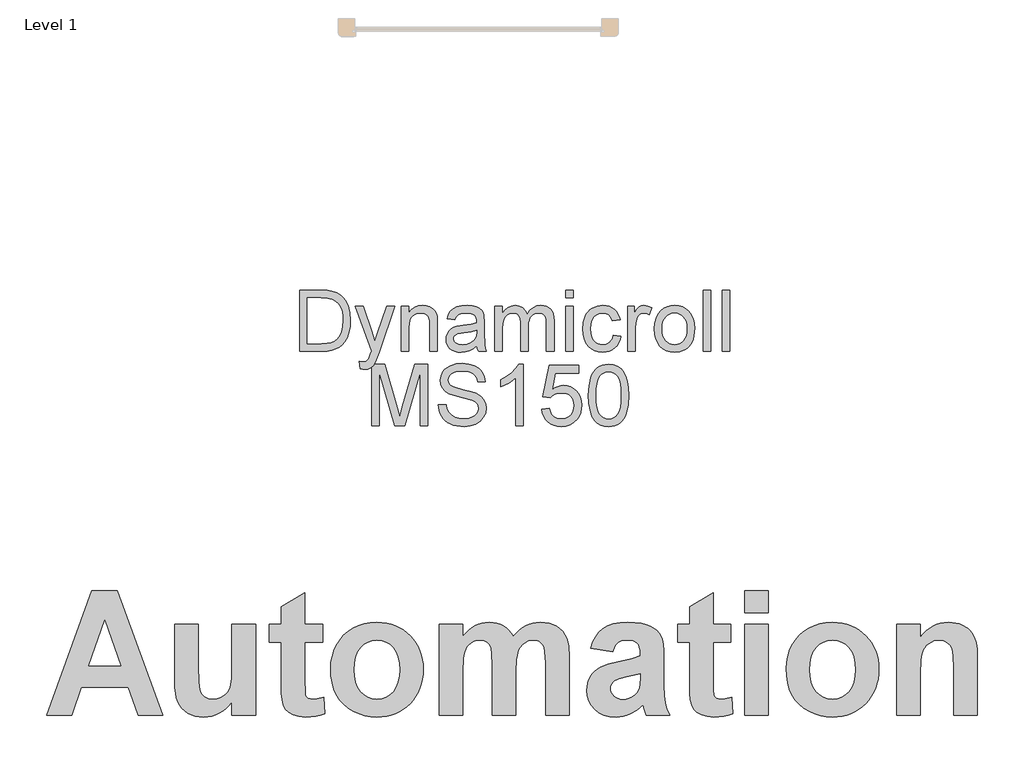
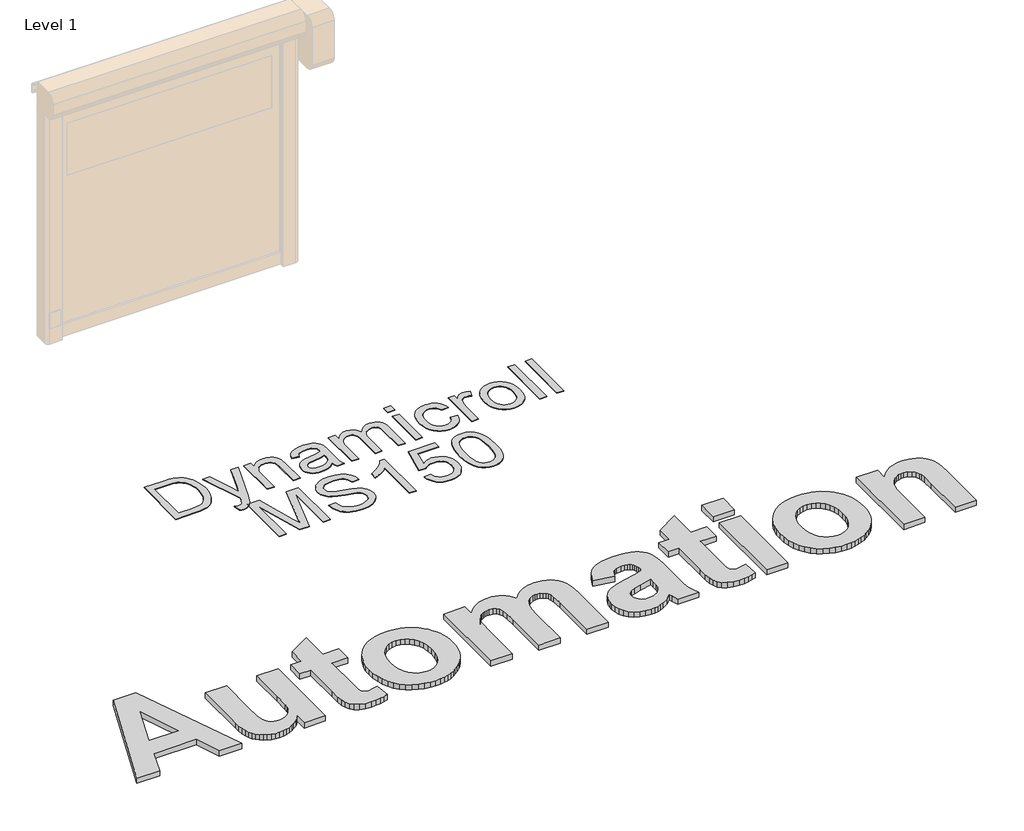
# One storey, part 16 of 17: 2 proxies.
"""IFC4 building model written with IfcOpenShell, lengths in millimetres."""

import ifcopenshell
import ifcopenshell.guid

model = None  # the IFC model being written
_history = None  # IfcOwnerHistory: only IFC2X3 demands one
_inside = {}  # id of a spatial element -> (the spatial element, [elements in it])
_under = {}  # id of a project, library or spatial element -> (it, [spatial elements below it])
_declared = {}  # id of a project -> (the project, [libraries it declares])
_typed = {}  # id of a type object -> (the type object, [elements of that type])
_made_of = {}  # id of a material, layer set ... -> (it, [elements and type objects made of it])


def new_model(schema):
    """Start an empty IFC model of exactly this schema.

    Asked for "IFC4X3", IfcOpenShell would pick the latest addendum, in which some entities
    have other attributes; the version numbers below select the first issue.
    IFC2X3 requires an IfcOwnerHistory on every rooted entity: one is made here for all.
    """
    global model, _history
    if schema == "IFC4X3":
        model = ifcopenshell.file(schema_version=(4, 3, 0, 0))
    else:
        model = ifcopenshell.file(schema=schema)
    _inside.clear()
    _under.clear()
    _declared.clear()
    _typed.clear()
    _made_of.clear()
    _history = None
    if model.schema == "IFC2X3":
        org = make("IfcOrganization", Name="unknown")
        user = make(
            "IfcPersonAndOrganization",
            ThePerson=make("IfcPerson", FamilyName="unknown"),
            TheOrganization=org,
        )
        app = make(
            "IfcApplication",
            ApplicationDeveloper=org,
            Version="unknown",
            ApplicationFullName="unknown",
            ApplicationIdentifier="unknown",
        )
        _history = make(
            "IfcOwnerHistory",
            OwningUser=user,
            OwningApplication=app,
            ChangeAction="ADDED",
            CreationDate=0,
        )
    return model


def make(cls, **values):
    """One entity of the class cls with the attributes given. An attribute that is None is left unset."""
    return model.create_entity(
        cls, **{name: value for name, value in values.items() if value is not None}
    )


def rooted(cls, **values):
    """An entity with a GlobalId (a new one), such as an element, a storey or a relation."""
    return make(cls, GlobalId=ifcopenshell.guid.new(), OwnerHistory=_history, **values)


def si_unit(unit_type, name, prefix=None):
    """IfcSIUnit, for example si_unit("LENGTHUNIT", "METRE", prefix="MILLI")."""
    return make("IfcSIUnit", UnitType=unit_type, Prefix=prefix, Name=name)


def assignment(units):
    """IfcUnitAssignment: the units of a project."""
    return None if units is None else make("IfcUnitAssignment", Units=units)


def point(xyz):
    """IfcCartesianPoint."""
    return None if xyz is None else make("IfcCartesianPoint", Coordinates=xyz)


def direction(xyz):
    """IfcDirection."""
    return None if xyz is None else make("IfcDirection", DirectionRatios=xyz)


def frame(location, z_axis=None, x_axis=None):
    """IfcAxis2Placement3D, a coordinate frame: its origin and axes. An axis left out is left unset."""
    return make(
        "IfcAxis2Placement3D",
        Location=point(location),
        Axis=direction(z_axis),
        RefDirection=direction(x_axis),
    )


def origin():
    """The frame at (0, 0, 0) with its axes left unset."""
    return frame((0.0, 0.0, 0.0))


def origin_with_axes():
    """The frame at (0, 0, 0) with the z axis (0, 0, 1) and the x axis (1, 0, 0) written out."""
    return frame((0.0, 0.0, 0.0), z_axis=(0.0, 0.0, 1.0), x_axis=(1.0, 0.0, 0.0))


def place(relative_to, where):
    """IfcLocalPlacement: puts the frame where relative to a parent placement (None: the world)."""
    return make(
        "IfcLocalPlacement", PlacementRelTo=relative_to, RelativePlacement=where
    )


def context(
    kind, dimensions, precision=None, world=None, true_north=None, identifier=None
):
    """IfcGeometricRepresentationContext, for example the 3D "Model" context."""
    return make(
        "IfcGeometricRepresentationContext",
        ContextIdentifier=identifier,
        ContextType=kind,
        CoordinateSpaceDimension=dimensions,
        Precision=precision,
        WorldCoordinateSystem=world,
        TrueNorth=true_north,
    )


def project(units=None, contexts=None):
    """IfcProject with its units and contexts."""
    return rooted(
        "IfcProject",
        Name="project",
        RepresentationContexts=contexts,
        UnitsInContext=assignment(units),
    )


def spatial(cls, under=None, at=None, **own):
    """A site, building, storey or space (cls), placed at a placement, below another one or the project."""
    s = rooted(cls, ObjectPlacement=at, **own)
    if under is not None:
        _under.setdefault(under.id(), (under, []))[1].append(s)
    return s


def polyline(points):
    """IfcPolyline through the points."""
    return make("IfcPolyline", Points=[point(p) for p in points])


def outline(outer, holes=None, kind="AREA"):
    """IfcArbitraryClosedProfileDef: a profile drawn as a closed curve; with holes, ...WithVoids."""
    if holes is None:
        return make("IfcArbitraryClosedProfileDef", ProfileType=kind, OuterCurve=outer)
    return make(
        "IfcArbitraryProfileDefWithVoids",
        ProfileType=kind,
        OuterCurve=outer,
        InnerCurves=holes,
    )


def extrude(swept, where, along, depth):
    """IfcExtrudedAreaSolid: the profile swept, set in the frame where, extruded along a direction by depth."""
    return make(
        "IfcExtrudedAreaSolid",
        SweptArea=swept,
        Position=where,
        ExtrudedDirection=direction(along),
        Depth=depth,
    )


def shape(context_of_items, identifier, shape_type, items):
    """IfcShapeRepresentation: the items that make up one representation, for example the "Body"."""
    return make(
        "IfcShapeRepresentation",
        ContextOfItems=context_of_items,
        RepresentationIdentifier=identifier,
        RepresentationType=shape_type,
        Items=items,
    )


def made_of(thing, what):
    """Note that an element or type object is made of a material, layer set ...; save() writes the relation."""
    if what is not None:
        _made_of.setdefault(what.id(), (what, []))[1].append(thing)
    return thing


def element(
    cls,
    number,
    at=None,
    inside=None,
    cuts=None,
    type_object=None,
    material=None,
    context=None,
    identifier="Body",
    shape_type=None,
    held_by="IfcProductDefinitionShape",
    body=None,
    shapes=None,
    **own,
):
    """One element of the class cls, such as IfcWall. Its Tag is "e" and its number.

    at: its placement. inside: the storey or other place that contains it. cuts: it is an
    opening in that element (IfcRelVoidsElement). A single representation is given by context,
    identifier, shape_type and body (its items); several are given by shapes. held_by: the class
    of the entity that holds the representations. save() writes the other relations.
    """
    e = rooted(cls, Tag="e%d" % number, ObjectPlacement=at, **own)
    if body is not None:
        shapes = [shape(context, identifier, shape_type, body)]
    if shapes is not None:
        e.Representation = make(held_by, Representations=shapes)
    if inside is not None:
        _inside.setdefault(inside.id(), (inside, []))[1].append(e)
    if cuts is not None:
        rooted(
            "IfcRelVoidsElement", RelatingBuildingElement=cuts, RelatedOpeningElement=e
        )
    if type_object is not None:
        _typed.setdefault(type_object.id(), (type_object, []))[1].append(e)
    return made_of(e, material)


def aggregate(whole, parts):
    """IfcRelAggregates: a whole, such as a stair, and the parts it consists of."""
    return rooted("IfcRelAggregates", RelatingObject=whole, RelatedObjects=parts)


def save(model, path):
    """Write the relations noted so far, then the file.

    IfcRelAggregates (storeys below a building ...), IfcRelContainedInSpatialStructure (elements
    in a storey), IfcRelDefinesByType, IfcRelAssociatesMaterial and IfcRelDeclares: one each for
    every whole, place, type object, material and project.
    """
    for whole, parts in _under.values():
        aggregate(whole, parts)
    for where, things in _inside.values():
        rooted(
            "IfcRelContainedInSpatialStructure",
            RelatedElements=things,
            RelatingStructure=where,
        )
    for kind, things in _typed.values():
        rooted("IfcRelDefinesByType", RelatedObjects=things, RelatingType=kind)
    for what, things in _made_of.values():
        rooted("IfcRelAssociatesMaterial", RelatedObjects=things, RelatingMaterial=what)
    for by, libraries in _declared.values():
        rooted("IfcRelDeclares", RelatingContext=by, RelatedDefinitions=libraries)
    model.write(path)


model = new_model("IFC4")

# Units and contexts
model_context = context("Model", 3, world=origin())
ifc_project = project(units=[si_unit("LENGTHUNIT", "METRE", prefix="MILLI")], contexts=[model_context])

# Site, building, storey
site = spatial("IfcSite", under=ifc_project)
building = spatial("IfcBuilding", under=site)
storey = spatial("IfcBuildingStorey", under=building, Name="Level 1", Elevation=0.0)

# Proxies
placement = place(None, origin())
element("IfcBuildingElementProxy", 1, Name="1000", ObjectType="1000", at=placement, inside=storey, context=model_context, shape_type="SweptSolid", body=[
    extrude(outline(polyline([(1198.6862628, 62514.1517949), (994.4825585, 62514.1517949), (914.5217524, 62740.876106), (529.1410316, 62740.876106), (450.1923876, 62514.1517949), (243.2052375, 62514.1517949), (615.6808914, 63534.4111948), (822.6680415, 63534.4111948), (1198.6862628, 62514.1517949)]), holes=[polyline([(852.273783, 62919.0166361), (720.9457502, 63291.4922901), (591.389001, 62919.0166361), (852.273783, 62919.0166361)])]), origin_with_axes(), (0.0, 0.0, 1.0), 50.0),
    extrude(outline(polyline([(1765.4970406, 62514.1517949), (1765.4970406, 62623.465302), (1744.6291047, 62595.796902), (1720.7404976, 62571.2440635), (1693.8312192, 62549.8067865), (1663.9012695, 62531.4850709), (1632.0102557, 62516.8166279), (1599.2177851, 62506.3391687), (1565.5238576, 62500.0526931), (1530.9284732, 62497.9572012), (1496.2777362, 62500.0131555), (1463.4299129, 62506.1810183), (1432.3850034, 62516.4607897), (1403.1430077, 62530.8524696), (1376.7635329, 62548.9685897), (1354.3061862, 62570.4216818), (1335.7709677, 62595.2117458), (1321.1578773, 62623.3387818), (1310.0873543, 62655.9889171), (1302.1798379, 62694.3482793), (1297.435328, 62738.4168684), (1295.8538247, 62788.1946843), (1295.8538247, 63259.1031028), (1490.1889485, 63259.1031028), (1490.1889485, 62914.7149472), (1492.814244, 62787.2141523), (1500.6901304, 62721.0124247), (1515.5562613, 62689.1293185), (1539.1522903, 62664.5843875), (1570.8772462, 62648.9275049), (1610.1301578, 62643.7085441), (1634.0345799, 62645.4481977), (1656.6579844, 62650.6671586), (1678.0003713, 62659.3654266), (1698.0617405, 62671.5430019), (1715.9485426, 62686.3063351), (1730.7672284, 62702.7618768), (1742.5177978, 62720.909627), (1751.2002509, 62740.7495857), (1757.4550964, 62768.9082517), (1761.9228432, 62812.0121238), (1765.4970406, 62943.0554861), (1765.4970406, 63259.1031028), (1959.8321644, 63259.1031028), (1959.8321644, 62514.1517949), (1765.4970406, 62514.1517949)])), origin_with_axes(), (0.0, 0.0, 1.0), 50.0),
    extrude(outline(polyline([(2510.4483485, 63259.1031028), (2510.4483485, 63113.3517599), (2364.6970057, 63113.3517599), (2364.6970057, 62793.7615759), (2365.804058, 62717.0586665), (2369.1252149, 62680.7789811), (2376.3684999, 62666.1026306), (2389.2419367, 62654.2097259), (2406.6384728, 62646.3338395), (2427.451056, 62643.7085441), (2465.913216, 62648.3897938), (2518.5456453, 62662.433543), (2526.6429422, 62524.2734159), (2490.3158117, 62512.760072), (2451.6796864, 62504.5362549), (2410.7345663, 62499.6019647), (2367.4804514, 62497.9572012), (2315.7336639, 62502.5119307), (2269.3007274, 62516.1761191), (2231.3762786, 62537.0519625), (2205.1549541, 62563.2416569), (2187.8533082, 62597.2123475), (2176.687895, 62641.4311794), (2171.9433851, 62694.2533891), (2170.3618818, 62782.8808333), (2170.3618818, 63113.3517599), (2073.1943199, 63113.3517599), (2073.1943199, 63259.1031028), (2170.3618818, 63259.1031028), (2170.3618818, 63404.8544456), (2364.6970057, 63518.2166012), (2364.6970057, 63259.1031028), (2510.4483485, 63259.1031028)])), origin_with_axes(), (0.0, 0.0, 1.0), 50.0),
    extrude(outline(polyline([(2575.2267231, 62897.2551509), (2578.2236718, 62945.8310244), (2587.214518, 62993.6319612), (2602.1992616, 63040.6579614), (2623.1779027, 63086.909025), (2649.6443602, 63130.0603422), (2681.0925531, 63167.7871031), (2717.5224813, 63200.0893077), (2758.9341448, 63226.966956), (2804.1176937, 63248.111655), (2851.8632779, 63263.2150113), (2902.1708974, 63272.2770252), (2955.0405523, 63275.2976964), (2995.9718342, 63273.5857191), (3035.009266, 63268.4497872), (3072.1528475, 63259.8899007), (3107.4025789, 63247.9060595), (3140.7584601, 63232.4982638), (3172.2204911, 63213.6665134), (3201.7886719, 63191.4108084), (3229.4630025, 63165.7311488), (3254.5199452, 63137.4341012), (3276.2359622, 63107.3262324), (3294.6110535, 63075.4075424), (3309.6452191, 63041.678031), (3321.338459, 63006.1376984), (3329.6907733, 62968.7865446), (3334.7021618, 62929.6245694), (3336.3726247, 62888.651773), (3334.6843699, 62847.3606991), (3329.6196056, 62807.8764927), (3321.1783318, 62770.1991538), (3309.3605485, 62734.3286824), (3294.1662557, 62700.2650785), (3275.5954534, 62668.0083421), (3253.6481415, 62637.5584732), (3228.3243201, 62608.9154718), (3200.4424172, 62582.9096271), (3170.8208607, 62560.3712284), (3139.4596505, 62541.3002757), (3106.3587867, 62525.6967689), (3071.5182693, 62513.560708), (3034.9380983, 62504.8920932), (2996.6182737, 62499.6909242), (2956.5587955, 62497.9572012), (2906.4172338, 62500.8434447), (2857.4617995, 62509.5021752), (2809.6924928, 62523.9333927), (2763.1093135, 62544.1370972), (2719.8710137, 62569.9235083), (2682.1363452, 62601.1028456), (2649.9053083, 62637.6751091), (2623.1779027, 62679.6402988), (2602.1992616, 62726.7374666), (2587.214518, 62778.7056646), (2578.2236718, 62835.5448927), (2575.2267231, 62897.2551509)]), holes=[polyline([(2769.5618469, 62886.6274488), (2772.9225414, 62831.2352962), (2783.0046248, 62782.7226829), (2799.8080973, 62741.0896089), (2823.3329586, 62706.3360742), (2851.7921103, 62678.9365298), (2883.3984534, 62659.3654266), (2918.1519882, 62647.6227647), (2956.0527144, 62643.7085441), (2993.9376256, 62647.6227647), (3028.6437152, 62659.3654266), (3060.1709832, 62678.9365298), (3088.5194297, 62706.3360742), (3111.9335858, 62741.1844991), (3128.6579831, 62783.1022437), (3138.6926214, 62832.089308), (3142.0375009, 62888.145692), (3138.6926214, 62942.8736132), (3128.6579831, 62990.9117755), (3111.9335858, 63032.2601789), (3088.5194297, 63066.9188235), (3060.1709832, 63094.3183679), (3028.6437152, 63113.8894711), (2993.9376256, 63125.632133), (2956.0527144, 63129.5463536), (2918.1519882, 63125.632133), (2883.3984534, 63113.8894711), (2851.7921103, 63094.3183679), (2823.3329586, 63066.9188235), (2799.8080973, 63032.1652888), (2783.0046248, 62990.5322147), (2772.9225414, 62942.0196014), (2769.5618469, 62886.6274488)])]), origin_with_axes(), (0.0, 0.0, 1.0), 50.0),
    extrude(outline(polyline([(3465.9293739, 63259.1031028), (3660.2644977, 63259.1031028), (3660.2644977, 63159.4051356), (3683.64307, 63186.5674546), (3708.1049721, 63210.108131), (3733.6502039, 63230.0271649), (3760.2787655, 63246.3245562), (3787.9906568, 63259.0003051), (3816.7858779, 63268.0544114), (3846.6644287, 63273.4868752), (3877.6263093, 63275.2976964), (3910.0392192, 63273.5185052), (3940.2222094, 63268.1809317), (3968.17528, 63259.2849757), (3993.8984309, 63246.8306373), (4017.4074773, 63230.7704714), (4038.718234, 63211.057033), (4057.8307012, 63187.6903219), (4074.7448789, 63160.6703383), (4099.1395671, 63187.6903219), (4124.4989723, 63211.057033), (4150.8230945, 63230.7704714), (4178.1119337, 63246.8306373), (4206.3496748, 63259.2849757), (4235.520503, 63268.1809317), (4265.624418, 63273.5185052), (4296.66142, 63275.2976964), (4335.1077649, 63273.2180196), (4370.4859934, 63266.9789892), (4402.7961055, 63256.5806051), (4432.0381013, 63242.0228673), (4458.0063853, 63223.4322962), (4480.495362, 63200.9354119), (4499.5050315, 63174.5322146), (4515.0353938, 63144.2227041), (4523.6704017, 63116.751992), (4529.8382645, 63081.9114746), (4534.7725548, 62990.1210239), (4534.7725548, 62514.1517949), (4340.437431, 62514.1517949), (4340.437431, 62943.0554861), (4335.5031407, 63034.8459368), (4329.3352779, 63065.8908463), (4320.70027, 63087.0355453), (4305.7392489, 63105.6340239), (4287.1724003, 63118.9186515), (4264.9997242, 63126.8894281), (4239.2212207, 63129.5463536), (4219.5235972, 63127.9569428), (4200.41113, 63123.1887104), (4163.9416642, 63104.1157808), (4147.5256601, 63089.9217888), (4133.5768011, 63072.7703856), (4122.0950873, 63052.6615713), (4113.0805185, 63029.5953459), (4106.2721469, 63001.4920325), (4101.4090243, 62966.2719543), (4097.5185262, 62874.4815036), (4097.5185262, 62514.1517949), (3903.1834024, 62514.1517949), (3903.1834024, 62925.3426493), (3900.6529972, 63015.4567065), (3893.0617814, 63066.6657829), (3880.1883446, 63094.3737205), (3861.8112764, 63113.9843613), (3836.8551546, 63125.6558555), (3804.2445568, 63129.5463536), (3782.9100775, 63128.0043879), (3762.6826505, 63123.3784908), (3743.5622757, 63115.6686623), (3725.5489533, 63104.8749023), (3709.3227296, 63091.1632688), (3695.563651, 63074.6998196), (3684.2717175, 63055.4845547), (3675.4469292, 63033.5174741), (3668.8046154, 63006.3393401), (3664.0601055, 62971.4909152), (3660.2644977, 62878.7831925), (3660.2644977, 62514.1517949), (3465.9293739, 62514.1517949), (3465.9293739, 63259.1031028)])), origin_with_axes(), (0.0, 0.0, 1.0), 50.0),
    extrude(outline(polyline([(4891.0536151, 63032.3787917), (4712.9130849, 63064.767979), (4729.6532972, 63114.9332632), (4751.5333952, 63158.139933), (4778.5533788, 63194.3879883), (4810.7132481, 63223.6774292), (4849.6419515, 63246.2612961), (4896.9684374, 63262.3926296), (4952.6927056, 63272.0714297), (5016.8147564, 63275.2976964), (5074.9666322, 63273.3445399), (5125.1793615, 63267.4850702), (5167.4529444, 63257.7192874), (5201.7873807, 63244.0471915), (5229.9065092, 63227.3781469), (5253.5341683, 63208.6215179), (5272.670358, 63187.7773046), (5287.3150784, 63164.8455069), (5298.164191, 63135.8486442), (5305.9135571, 63096.8092356), (5310.5631768, 63047.7272811), (5312.11305, 62988.6027807), (5312.11305, 62758.8419833), (5314.6750853, 62673.5673261), (5322.3611913, 62614.1028026), (5337.0691718, 62565.8353223), (5360.6968309, 62514.1517949), (5166.3617071, 62514.1517949), (5148.1427893, 62575.8936832), (5141.3106951, 62600.4386142), (5091.0188906, 62555.6820712), (5037.311039, 62523.6408146), (5009.1444654, 62512.4042338), (4980.06062, 62504.3781046), (4950.0595027, 62499.5624271), (4919.1411134, 62497.9572012), (4866.6589269, 62501.8556068), (4820.0441175, 62513.5508236), (4779.2966854, 62533.0428516), (4744.4166304, 62560.3316908), (4716.4635598, 62593.5669824), (4696.4970808, 62630.8983675), (4684.5171934, 62672.3258461), (4680.5238976, 62717.8494181), (4682.3030888, 62748.4989518), (4687.6406624, 62777.440462), (4696.5366184, 62804.6739486), (4708.9909568, 62830.1994116), (4724.6557468, 62853.4316949), (4743.1830578, 62873.7856422), (4764.5728898, 62891.2612535), (4788.8252427, 62905.8585288), (4851.5160329, 62930.4667199), (4936.8539502, 62951.658864), (5047.3693999, 62976.6466159), (5117.7779262, 62999.9896044), (5117.7779262, 63020.485887), (5116.2675905, 63047.8458938), (5111.7365836, 63070.9674719), (5104.1849054, 63089.8506211), (5093.612556, 63104.4953415), (5078.8650378, 63115.4551593), (5058.7878536, 63123.2836006), (5033.3810033, 63127.9806653), (5002.6444869, 63129.5463536), (4962.3477832, 63124.1692424), (4945.9475941, 63117.4478535), (4932.0461802, 63108.0379089), (4919.9951252, 63095.2435473), (4909.1460127, 63078.3689073), (4891.0536151, 63032.3787917)]), holes=[polyline([(5117.7779262, 62854.2382615), (5008.2113785, 62827.2894455), (4946.2164497, 62811.8223434), (4910.0316545, 62796.5450217), (4894.6436275, 62783.5608797), (4883.6521797, 62768.9003442), (4877.057311, 62752.5634153), (4874.8590214, 62734.5500928), (4876.6223976, 62716.7028283), (4881.9125261, 62700.1049513), (4890.7294069, 62684.7564619), (4903.07304, 62670.6573601), (4918.1368588, 62658.8672531), (4935.1142966, 62650.4457481), (4954.0053534, 62645.3928451), (4974.8100291, 62643.7085441), (4998.9279542, 62645.6696082), (5022.4449081, 62651.5528004), (5045.3608907, 62661.3581208), (5067.6759021, 62675.0855693), (5094.8777586, 62701.5283042), (5110.6927914, 62733.2848902), (5116.0066425, 62765.9903782), (5117.7779262, 62819.0656285), (5117.7779262, 62854.2382615)])]), origin_with_axes(), (0.0, 0.0, 1.0), 50.0),
    extrude(outline(polyline([(5862.7292341, 63259.1031028), (5862.7292341, 63113.3517599), (5716.9778912, 63113.3517599), (5716.9778912, 62793.7615759), (5718.0849435, 62717.0586665), (5721.4061004, 62680.7789811), (5728.6493855, 62666.1026306), (5741.5228222, 62654.2097259), (5758.9193584, 62646.3338395), (5779.7319416, 62643.7085441), (5818.1941015, 62648.3897938), (5870.8265309, 62662.433543), (5878.9238277, 62524.2734159), (5842.5966972, 62512.760072), (5803.960572, 62504.5362549), (5763.0154519, 62499.6019647), (5719.761337, 62497.9572012), (5668.0145495, 62502.5119307), (5621.581613, 62516.1761191), (5583.6571642, 62537.0519625), (5557.4358397, 62563.2416569), (5540.1341938, 62597.2123475), (5528.9687806, 62641.4311794), (5524.2242707, 62694.2533891), (5522.6427674, 62782.8808333), (5522.6427674, 63113.3517599), (5425.4752055, 63113.3517599), (5425.4752055, 63259.1031028), (5522.6427674, 63259.1031028), (5522.6427674, 63404.8544456), (5716.9778912, 63518.2166012), (5716.9778912, 63259.1031028), (5862.7292341, 63259.1031028)])), origin_with_axes(), (0.0, 0.0, 1.0), 50.0),
    extrude(outline(polyline([(5976.0913896, 63356.2706647), (5976.0913896, 63534.4111948), (6170.4265134, 63534.4111948), (6170.4265134, 63356.2706647), (5976.0913896, 63356.2706647)])), origin_with_axes(), (0.0, 0.0, 1.0), 50.0),
    extrude(outline(polyline([(5976.0913896, 62514.1517949), (5976.0913896, 63259.1031028), (6170.4265134, 63259.1031028), (6170.4265134, 62514.1517949), (5976.0913896, 62514.1517949)])), origin_with_axes(), (0.0, 0.0, 1.0), 50.0),
    extrude(outline(polyline([(6316.1778563, 62897.2551509), (6319.174805, 62945.8310244), (6328.1656512, 62993.6319612), (6343.1503948, 63040.6579614), (6364.1290359, 63086.909025), (6390.5954934, 63130.0603422), (6422.0436863, 63167.7871031), (6458.4736144, 63200.0893077), (6499.885278, 63226.966956), (6545.0688269, 63248.111655), (6592.8144111, 63263.2150113), (6643.1220306, 63272.2770252), (6695.9916855, 63275.2976964), (6736.9229674, 63273.5857191), (6775.9603991, 63268.4497872), (6813.1039807, 63259.8899007), (6848.3537121, 63247.9060595), (6881.7095932, 63232.4982638), (6913.1716242, 63213.6665134), (6942.7398051, 63191.4108084), (6970.4141357, 63165.7311488), (6995.4710784, 63137.4341012), (7017.1870954, 63107.3262324), (7035.5621867, 63075.4075424), (7050.5963523, 63041.678031), (7062.2895922, 63006.1376984), (7070.6419064, 62968.7865446), (7075.653295, 62929.6245694), (7077.3237578, 62888.651773), (7075.6355031, 62847.3606991), (7070.5707388, 62807.8764927), (7062.129465, 62770.1991538), (7050.3116817, 62734.3286824), (7035.1173889, 62700.2650785), (7016.5465865, 62668.0083421), (6994.5992747, 62637.5584732), (6969.2754533, 62608.9154718), (6941.3935504, 62582.9096271), (6911.7719938, 62560.3712284), (6880.4107837, 62541.3002757), (6847.3099199, 62525.6967689), (6812.4694025, 62513.560708), (6775.8892315, 62504.8920932), (6737.5694069, 62499.6909242), (6697.5099286, 62497.9572012), (6647.3683669, 62500.8434447), (6598.4129327, 62509.5021752), (6550.643626, 62523.9333927), (6504.0604467, 62544.1370972), (6460.8221468, 62569.9235083), (6423.0874784, 62601.1028456), (6390.8564414, 62637.6751091), (6364.1290359, 62679.6402988), (6343.1503948, 62726.7374666), (6328.1656512, 62778.7056646), (6319.174805, 62835.5448927), (6316.1778563, 62897.2551509)]), holes=[polyline([(6510.5129801, 62886.6274488), (6513.8736746, 62831.2352962), (6523.955758, 62782.7226829), (6540.7592304, 62741.0896089), (6564.2840918, 62706.3360742), (6592.7432434, 62678.9365298), (6624.3495866, 62659.3654266), (6659.1031213, 62647.6227647), (6697.0038476, 62643.7085441), (6734.8887588, 62647.6227647), (6769.5948484, 62659.3654266), (6801.1221164, 62678.9365298), (6829.4705628, 62706.3360742), (6852.884719, 62741.1844991), (6869.6091162, 62783.1022437), (6879.6437546, 62832.089308), (6882.988634, 62888.145692), (6879.6437546, 62942.8736132), (6869.6091162, 62990.9117755), (6852.884719, 63032.2601789), (6829.4705628, 63066.9188235), (6801.1221164, 63094.3183679), (6769.5948484, 63113.8894711), (6734.8887588, 63125.632133), (6697.0038476, 63129.5463536), (6659.1031213, 63125.632133), (6624.3495866, 63113.8894711), (6592.7432434, 63094.3183679), (6564.2840918, 63066.9188235), (6540.7592304, 63032.1652888), (6523.955758, 62990.5322147), (6513.8736746, 62942.0196014), (6510.5129801, 62886.6274488)])]), origin_with_axes(), (0.0, 0.0, 1.0), 50.0),
    extrude(outline(polyline([(7887.0534403, 62514.1517949), (7692.7183165, 62514.1517949), (7692.7183165, 62897.0021104), (7689.6818302, 62997.2061586), (7685.8862223, 63031.1768492), (7680.5723713, 63054.3933174), (7664.567558, 63086.0866433), (7640.8450088, 63109.8091926), (7610.5434058, 63124.6120633), (7574.8014315, 63129.5463536), (7550.6439688, 63127.7829774), (7527.7675238, 63122.4928489), (7506.1720964, 63113.6759681), (7485.8576867, 63101.332335), (7467.7336591, 63086.0708283), (7452.7093778, 63068.5003267), (7440.7848431, 63048.6208304), (7431.9600547, 63026.4323393), (7425.594504, 62998.1471531), (7421.047682, 62959.9775713), (7417.4102245, 62853.985221), (7417.4102245, 62514.1517949), (7223.0751007, 62514.1517949), (7223.0751007, 63259.1031028), (7417.4102245, 63259.1031028), (7417.4102245, 63151.8139199), (7441.2474328, 63180.75543), (7466.5791617, 63205.8380721), (7493.4054111, 63227.0618462), (7521.7261812, 63244.4267523), (7551.5414719, 63257.9327904), (7582.8512832, 63267.5799604), (7615.6556152, 63273.3682624), (7649.9544677, 63275.2976964), (7709.0394305, 63269.4145042), (7736.5892177, 63262.0605139), (7762.8105422, 63251.7649275), (7807.7252355, 63225.0058919), (7825.5329625, 63209.2066741), (7840.2409431, 63191.7943229), (7862.5401394, 63152.9209722), (7876.805299, 63109.1765913), (7884.491405, 63052.9699645), (7887.0534403, 62976.709876), (7887.0534403, 62514.1517949)])), origin_with_axes(), (0.0, 0.0, 1.0), 50.0),
])
element("IfcBuildingElementProxy", 2, Name="500mm", ObjectType="500mm", at=placement, inside=storey, context=model_context, shape_type="SweptSolid", body=[
    extrude(outline(polyline([(2323.0374075, 65500.9633243), (2323.0374075, 66003.244875), (2496.3098272, 66003.244875), (2548.089218, 66001.4361219), (2585.9504067, 65996.0098625), (2625.9882305, 65982.0610035), (2659.7720604, 65960.0800543), (2678.3884222, 65942.1151502), (2694.5062521, 65921.8203268), (2708.1255501, 65899.1955841), (2719.2463163, 65874.2409221), (2734.0535666, 65818.2615451), (2738.9893167, 65754.801901), (2735.6477219, 65700.8918603), (2725.6229375, 65653.4504113), (2710.3558347, 65613.0600339), (2691.2872846, 65580.3032079), (2669.3369923, 65554.4441693), (2645.4246626, 65534.7471542), (2617.9714687, 65520.1391733), (2585.3985837, 65509.5472375), (2547.6446939, 65503.1093026), (2504.6484857, 65500.9633243), (2323.0374075, 65500.9633243)]), holes=[polyline([(2385.8226013, 65563.7485181), (2496.9229638, 65563.7485181), (2542.8775564, 65566.0171238), (2577.7343755, 65572.8229407), (2604.0379381, 65583.76743), (2624.3327615, 65598.452053), (2646.1450981, 65625.6293354), (2662.5311753, 65660.8080512), (2672.785886, 65704.1414845), (2676.2041228, 65755.7829196), (2674.5294933, 65792.233894), (2669.5056048, 65824.2089707), (2661.1324573, 65851.7081499), (2649.4100508, 65874.7314314), (2635.2887472, 65893.7999815), (2619.7189082, 65909.4349663), (2602.7005338, 65921.6363858), (2584.233624, 65930.40424), (2548.1198748, 65937.9458209), (2495.2061812, 65940.4596812), (2385.8226013, 65940.4596812), (2385.8226013, 65563.7485181)])]), origin_with_axes(), (0.0, 0.0, 1.0), 5.0),
    extrude(outline(polyline([(2817.470809, 65359.6966381), (2809.6226597, 65420.1519127), (2841.505766, 65414.6336828), (2858.2750536, 65416.3657938), (2871.3042076, 65421.562127), (2881.4516193, 65429.8548003), (2889.57568, 65440.8759317), (2906.7435065, 65487.1064358), (2911.6485997, 65502.3122249), (2778.2300628, 65869.8263381), (2844.448822, 65869.8263381), (2915.2047924, 65665.0386941), (2939.852886, 65583.1236365), (2964.5009797, 65655.4737623), (3037.2189874, 65869.8263381), (3102.9472372, 65869.8263381), (2974.5564209, 65492.1341564), (2941.2017867, 65410.2190988), (2924.1259307, 65384.0688203), (2904.7814692, 65365.9506321), (2882.3100106, 65355.3740247), (2855.8531638, 65351.8484889), (2837.6736619, 65353.8105262), (2817.470809, 65359.6966381)])), origin_with_axes(), (0.0, 0.0, 1.0), 5.0),
    extrude(outline(polyline([(3154.9412259, 65500.9633243), (3154.9412259, 65869.8263381), (3217.7264197, 65869.8263381), (3217.7264197, 65818.3228588), (3239.5387564, 65844.2891963), (3265.7350201, 65862.8365802), (3296.3152109, 65873.9650106), (3331.2793289, 65877.6744874), (3362.2274018, 65874.6854461), (3390.5696438, 65865.7183225), (3414.206062, 65851.8920909), (3431.0366633, 65834.3257256), (3442.4563335, 65813.0652119), (3449.8599587, 65788.1565352), (3453.1708966, 65727.456006), (3453.1708966, 65500.9633243), (3390.3857028, 65500.9633243), (3390.3857028, 65718.9947201), (3388.5769497, 65751.4603062), (3383.1506902, 65774.5449014), (3373.1412343, 65791.0842627), (3357.5828916, 65803.9141473), (3337.6406217, 65812.145507), (3314.4793845, 65814.8892935), (3295.4146665, 65813.3487877), (3277.7065134, 65808.7272701), (3261.3549251, 65801.0247408), (3246.3599017, 65790.2411998), (3233.8327533, 65775.1503738), (3224.8847902, 65754.5259895), (3219.5160124, 65728.3680468), (3217.7264197, 65696.6765457), (3217.7264197, 65500.9633243), (3154.9412259, 65500.9633243)])), origin_with_axes(), (0.0, 0.0, 1.0), 5.0),
    extrude(outline(polyline([(3774.9450151, 65548.0522197), (3744.9473041, 65522.3311368), (3714.0605449, 65505.5005356), (3681.5796304, 65496.2115152), (3646.7994534, 65493.1151751), (3618.8442539, 65494.9775777), (3594.3302839, 65500.5647855), (3573.2575433, 65509.8767985), (3555.6260323, 65522.9136167), (3541.703998, 65538.8475056), (3531.7596879, 65556.8507307), (3525.7931018, 65576.9232921), (3523.8042397, 65599.0651897), (3526.8086093, 65625.0928408), (3535.8217182, 65648.729259), (3549.724592, 65668.9627688), (3567.3982561, 65684.7816945), (3588.1682605, 65696.7378594), (3611.3601546, 65705.3830863), (3665.6840625, 65714.8253908), (3729.8794707, 65724.7582047), (3774.5771331, 65736.4078012), (3774.9450151, 65750.387317), (3770.6224016, 65778.4076623), (3757.6545613, 65796.7404484), (3744.5794221, 65804.6805681), (3728.6531974, 65810.3520822), (3688.2474916, 65814.8892935), (3650.8461554, 65811.8695955), (3624.7265337, 65802.8105013), (3606.9149138, 65786.0565421), (3594.4375828, 65759.9522489), (3531.6523889, 65767.8003981), (3542.5508931, 65802.136051), (3558.8143429, 65829.114064), (3581.9602518, 65849.7461126), (3613.5061329, 65865.0438722), (3652.0877571, 65874.5168336), (3696.3408955, 65877.6744874), (3738.7852806, 65874.8847156), (3772.4311548, 65866.5154002), (3797.799684, 65853.9307702), (3815.4120346, 65838.4950549), (3827.0922879, 65819.4111764), (3834.6645256, 65795.8820571), (3837.7302089, 65740.9450125), (3837.7302089, 65662.8314022), (3840.9185196, 65553.7543906), (3845.6396718, 65526.791706), (3853.4265074, 65500.9633243), (3790.6413136, 65500.9633243), (3780.5858724, 65522.7909893), (3774.9450151, 65548.0522197)]), holes=[polyline([(3774.9450151, 65673.6226074), (3732.761213, 65663.1686273), (3673.6548391, 65654.3701163), (3619.6374995, 65644.1920477), (3605.5813416, 65637.2329467), (3595.1733468, 65627.637358), (3588.7354119, 65616.1410456), (3586.5894336, 65603.4797736), (3591.2646006, 65584.8097624), (3605.2901016, 65569.5120027), (3628.3593684, 65559.3032774), (3660.1658326, 65555.9003689), (3693.8883488, 65559.6558309), (3723.6867904, 65570.922217), (3747.8443748, 65587.5228921), (3764.6443192, 65607.2812209), (3772.0939296, 65627.637358), (3774.5771331, 65655.8416443), (3774.9450151, 65673.6226074)])]), origin_with_axes(), (0.0, 0.0, 1.0), 5.0),
    extrude(outline(polyline([(3924.0598505, 65500.9633243), (3924.0598505, 65869.8263381), (3986.8450443, 65869.8263381), (3986.8450443, 65809.1258089), (4005.7296534, 65837.0081985), (4030.0098651, 65858.8511919), (4058.8579449, 65872.9686635), (4091.4461583, 65877.6744874), (4126.364291, 65872.876693), (4154.3539794, 65858.4833099), (4175.2619395, 65835.4447), (4188.934887, 65804.711225), (4211.8202128, 65836.6326523), (4237.924506, 65859.4336718), (4267.2477667, 65873.1142835), (4299.7899949, 65877.6744874), (4324.9247658, 65875.7775958), (4346.9861892, 65870.0869212), (4365.9742651, 65860.6024635), (4381.8889935, 65847.3242228), (4394.4697913, 65830.0989147), (4403.4560754, 65808.7732553), (4408.8478459, 65783.3472445), (4410.6451028, 65753.8208823), (4410.6451028, 65500.9633243), (4347.8599089, 65500.9633243), (4347.8599089, 65726.8428693), (4346.4037093, 65758.1588242), (4342.0351107, 65779.2660536), (4333.8497363, 65793.7207504), (4320.9432096, 65805.079107), (4304.3425346, 65812.4367469), (4285.0747151, 65814.8892935), (4267.2822557, 65813.3181308), (4251.0609589, 65808.6046428), (4236.4108249, 65800.7488293), (4223.3318535, 65789.7506905), (4212.5751373, 65775.2883296), (4204.8917685, 65757.0398498), (4200.2817473, 65735.0052511), (4198.7450735, 65709.1845336), (4198.7450735, 65500.9633243), (4135.9598797, 65500.9633243), (4135.9598797, 65733.8326272), (4132.327045, 65769.3332398), (4121.4285409, 65794.6557838), (4113.0017439, 65803.5079443), (4102.2526919, 65809.8309161), (4073.7878225, 65814.8892935), (4049.5995813, 65811.5170419), (4027.3120638, 65801.400287), (4008.917964, 65784.7842836), (3996.4099762, 65761.9142862), (3989.2362773, 65730.1844641), (3986.8450443, 65686.9889865), (3986.8450443, 65500.9633243), (3924.0598505, 65500.9633243)])), origin_with_axes(), (0.0, 0.0, 1.0), 5.0),
    extrude(outline(polyline([(4504.8228935, 65940.4596812), (4504.8228935, 66003.244875), (4567.6080874, 66003.244875), (4567.6080874, 65940.4596812), (4504.8228935, 65940.4596812)])), origin_with_axes(), (0.0, 0.0, 1.0), 5.0),
    extrude(outline(polyline([(4504.8228935, 65500.9633243), (4504.8228935, 65869.8263381), (4567.6080874, 65869.8263381), (4567.6080874, 65500.9633243), (4504.8228935, 65500.9633243)])), origin_with_axes(), (0.0, 0.0, 1.0), 5.0),
    extrude(outline(polyline([(4897.230355, 65634.3818612), (4960.0155489, 65626.533712), (4953.1867394, 65596.9077151), (4942.5104973, 65570.6922908), (4927.9868227, 65547.8874392), (4909.6157155, 65528.4931603), (4888.1712609, 65513.0152917), (4864.4275438, 65501.9596714), (4838.3845642, 65495.3262991), (4810.0423222, 65493.1151751), (4774.8291175, 65496.2000189), (4743.2564116, 65505.4545503), (4715.3242047, 65520.8787694), (4691.0324967, 65542.4726761), (4671.3699705, 65569.8300674), (4657.3253089, 65602.5447402), (4648.898512, 65640.6166946), (4646.0895797, 65684.0459306), (4650.887374, 65739.9180086), (4665.2807571, 65788.3404762), (4676.1332759, 65809.2905894), (4689.4996551, 65827.4432666), (4705.3798946, 65842.7985078), (4723.7739943, 65855.356313), (4764.7775084, 65872.0949438), (4809.1839309, 65877.6744874), (4837.0394957, 65875.7584353), (4862.2355803, 65870.0102791), (4884.7721846, 65860.4300188), (4904.6493086, 65847.0176544), (4921.5297272, 65830.0797542), (4935.0762153, 65809.9228866), (4945.2887728, 65786.5470515), (4952.1673997, 65759.9522489), (4889.3822058, 65752.1040997), (4877.9931924, 65779.4959799), (4860.2582145, 65799.1316814), (4837.1582909, 65810.9498905), (4809.6744402, 65814.8892935), (4788.3411166, 65812.9502488), (4769.1001218, 65807.1331148), (4751.9514559, 65797.4378914), (4736.8951188, 65783.8645786), (4724.6362177, 65766.0989439), (4715.8798598, 65743.8267548), (4710.6260451, 65717.0480112), (4708.8747735, 65685.7627132), (4710.5877241, 65654.0060664), (4715.7265757, 65626.9169224), (4724.2913284, 65604.4952812), (4736.2819822, 65586.7411428), (4751.0394151, 65573.2483042), (4767.9045053, 65563.6105624), (4786.8772528, 65557.8279173), (4807.9576575, 65555.9003689), (4840.4692289, 65560.7134917), (4867.1253451, 65575.15286), (4877.905054, 65586.0743567), (4886.5157919, 65599.5863558), (4897.230355, 65634.3818612)])), origin_with_axes(), (0.0, 0.0, 1.0), 5.0),
    extrude(outline(polyline([(5014.9525935, 65500.9633243), (5014.9525935, 65869.8263381), (5069.8896381, 65869.8263381), (5069.8896381, 65815.2571755), (5090.1844615, 65846.8950271), (5108.8851296, 65865.5343815), (5127.6471114, 65874.6394609), (5148.1258758, 65877.6744874), (5179.3958453, 65872.8307077), (5211.1563243, 65858.2993689), (5190.1870505, 65802.0134237), (5168.1141308, 65811.6703261), (5146.0412111, 65814.8892935), (5127.2945578, 65811.7929534), (5110.5405986, 65802.503933), (5097.0056068, 65787.7273395), (5087.9158559, 65768.1682801), (5080.2823045, 65733.0968632), (5077.7377873, 65694.8371357), (5077.7377873, 65500.9633243), (5014.9525935, 65500.9633243)])), origin_with_axes(), (0.0, 0.0, 1.0), 5.0),
    extrude(outline(polyline([(5234.700772, 65685.3948312), (5238.0960162, 65733.1658411), (5248.2817489, 65774.3303035), (5265.2579702, 65808.8882185), (5289.0246799, 65836.8395859), (5312.952338, 65854.7048553), (5339.3631996, 65867.465762), (5368.2572646, 65875.122306), (5399.6345331, 65877.6744874), (5434.2729222, 65874.5666509), (5465.5927092, 65865.2431416), (5493.593894, 65849.7039594), (5518.2764766, 65827.9491043), (5538.4218479, 65800.7143404), (5552.8113989, 65768.7354315), (5561.4451294, 65732.0123778), (5564.3230396, 65690.5451791), (5559.2340054, 65627.1161918), (5552.8727125, 65601.0808764), (5543.9669026, 65578.8316799), (5532.6277065, 65559.6136778), (5518.9662553, 65542.6719455), (5502.982549, 65528.006483), (5484.6765877, 65515.6172904), (5443.9489851, 65498.7407039), (5399.6345331, 65493.1151751), (5364.4903063, 65496.2115152), (5332.8792794, 65505.5005356), (5304.8014526, 65520.9822362), (5280.2568257, 65542.6566171), (5260.3260522, 65570.1557962), (5246.0897854, 65603.1118916), (5237.5480253, 65641.5249033), (5234.700772, 65685.3948312)]), holes=[polyline([(5297.4859658, 65685.5174585), (5299.3023831, 65655.0637271), (5304.7516352, 65628.6950187), (5313.833722, 65606.4113333), (5326.5486434, 65588.2126708), (5342.0150156, 65574.0760387), (5359.3514547, 65563.9784444), (5378.5579605, 65557.9198878), (5399.6345331, 65555.9003689), (5420.6038068, 65557.9313841), (5439.7336706, 65564.0244296), (5457.0241244, 65574.1795055), (5472.4751682, 65588.3966118), (5485.1900896, 65606.7753832), (5494.2721764, 65629.4154543), (5499.7214284, 65656.3168252), (5501.5378458, 65687.4794958), (5499.7099321, 65716.967537), (5494.2261911, 65742.6464667), (5485.0866228, 65764.5162849), (5472.2912272, 65782.5769916), (5456.7827018, 65796.7136237), (5439.5037444, 65806.811218), (5420.4543548, 65812.8697746), (5399.6345331, 65814.8892935), (5378.5579605, 65812.8774388), (5359.3514547, 65806.8418749), (5342.0150156, 65796.7826016), (5326.5486434, 65782.6996189), (5313.833722, 65764.5546059), (5304.7516352, 65742.3092415), (5299.3023831, 65715.9635257), (5297.4859658, 65685.5174585)])]), origin_with_axes(), (0.0, 0.0, 1.0), 5.0),
    extrude(outline(polyline([(5634.9563827, 65500.9633243), (5634.9563827, 66003.244875), (5697.7415765, 66003.244875), (5697.7415765, 65500.9633243), (5634.9563827, 65500.9633243)])), origin_with_axes(), (0.0, 0.0, 1.0), 5.0),
    extrude(outline(polyline([(5791.9193673, 65500.9633243), (5791.9193673, 66003.244875), (5854.7045612, 66003.244875), (5854.7045612, 65500.9633243), (5791.9193673, 65500.9633243)])), origin_with_axes(), (0.0, 0.0, 1.0), 5.0),
    extrude(outline(polyline([(2911.6485997, 64891.0892351), (2911.6485997, 65393.3707858), (3019.683279, 65393.3707858), (3122.444983, 65039.3456791), (3143.169002, 64965.4013981), (3165.6098037, 65045.4770457), (3266.6547251, 65393.3707858), (3374.6894043, 65393.3707858), (3374.6894043, 64891.0892351), (3311.9042105, 64891.0892351), (3311.9042105, 65330.585592), (3185.7206861, 64891.0892351), (3100.6173179, 64891.0892351), (2974.4337936, 65330.585592), (2974.4337936, 64891.0892351), (2911.6485997, 64891.0892351)])), origin_with_axes(), (0.0, 0.0, 1.0), 5.0),
    extrude(outline(polyline([(3461.0190459, 65063.7485181), (3523.8042397, 65063.7485181), (3531.0085955, 65028.9070275), (3544.0377495, 65000.9020106), (3564.3632297, 64978.6758068), (3593.4565641, 64961.1707551), (3629.0184903, 64949.8123985), (3668.7497458, 64946.0262797), (3703.7291922, 64948.8926936), (3734.3553683, 64957.4919352), (3759.1720745, 64971.103569), (3776.7231114, 64989.0071594), (3787.161763, 65009.5625659), (3790.6413136, 65031.1296479), (3788.0354828, 65052.1449069), (3780.2179904, 65070.3090804), (3764.3377509, 65085.8061094), (3737.5436789, 65098.819935), (3646.1250031, 65122.7935784), (3586.1142527, 65138.6584894), (3547.7165694, 65153.7569796), (3516.4619282, 65174.8795375), (3494.3123664, 65200.477993), (3481.1145999, 65230.0005231), (3476.7153443, 65262.8953049), (3482.1569322, 65299.668176), (3498.4816957, 65333.9578436), (3510.6179695, 65349.4855295), (3525.2604393, 65363.0205212), (3562.0639672, 65384.1124223), (3606.2404635, 65396.9423068), (3655.138112, 65401.218935), (3708.1131193, 65396.7430374), (3754.4662507, 65383.3153446), (3792.5420372, 65361.2117681), (3807.8551252, 65347.0099902), (3820.6850098, 65330.7082193), (3838.4966298, 65293.705422), (3845.5783582, 65252.1040997), (3782.7931643, 65252.1040997), (3778.5931782, 65272.13834), (3771.2661951, 65289.5667495), (3760.8122151, 65304.3893282), (3747.2312381, 65316.6060762), (3730.2703453, 65326.1556796), (3709.6766178, 65332.9768249), (3657.5906586, 65338.4337412), (3604.2784262, 65333.0381386), (3583.8992965, 65326.2936354), (3567.7048245, 65316.8513308), (3555.3654492, 65305.5006384), (3546.5516098, 65293.0309716), (3541.2633061, 65279.4423304), (3539.5005382, 65264.7347148), (3544.4976019, 65240.6077873), (3559.4887932, 65221.2020121), (3573.2537112, 65212.5721136), (3594.9280921, 65203.8502446), (3662.0052426, 65186.1305952), (3731.2283713, 65169.2999939), (3773.1056051, 65154.6153709), (3808.8974576, 65131.8373441), (3833.867448, 65103.7250283), (3848.5367425, 65070.5849919), (3853.4265074, 65032.7238032), (3847.8009786, 64994.0195516), (3830.924392, 64957.6145625), (3803.4865266, 64926.2832793), (3766.1771609, 64902.8001452), (3721.3108859, 64888.1308507), (3671.2022925, 64883.2410858), (3609.6893572, 64888.5140611), (3583.0140804, 64895.1052802), (3559.0595976, 64904.3329869), (3537.6802887, 64916.2125097), (3518.7305339, 64930.7591769), (3502.210333, 64947.9729886), (3488.1196862, 64967.8539447), (3476.7689938, 64989.7582519), (3468.4686563, 65013.0421165), (3463.2186736, 65037.7055386), (3461.0190459, 65063.7485181)])), origin_with_axes(), (0.0, 0.0, 1.0), 5.0),
    extrude(outline(polyline([(4159.5043274, 64891.0892351), (4096.7191335, 64891.0892351), (4096.7191335, 65282.5156779), (4070.5075414, 65261.316478), (4037.2448777, 65240.1479348), (3971.1487459, 65208.4487696), (3971.1487459, 65267.8003981), (4020.4602616, 65294.6251269), (4063.1805583, 65326.53889), (4096.8570893, 65360.4760041), (4119.0373079, 65393.3707858), (4159.5043274, 65393.3707858), (4159.5043274, 64891.0892351)])), origin_with_axes(), (0.0, 0.0, 1.0), 5.0),
    extrude(outline(polyline([(4308.6191628, 65024.507772), (4371.4043566, 65032.3559212), (4382.9313258, 64994.6633451), (4391.9137778, 64979.8292701), (4403.0422082, 64967.6700037), (4416.2936242, 64958.2008745), (4431.6450333, 64951.4372107), (4468.6478307, 64946.0262797), (4492.5601603, 64947.9078428), (4513.6520614, 64953.5525322), (4531.9235338, 64962.9603478), (4547.3745776, 64976.1312896), (4559.6603034, 64992.4139), (4568.4358219, 65011.1567212), (4573.7011329, 65032.3597533), (4575.4562366, 65056.0229962), (4573.8122639, 65078.3871559), (4568.8803459, 65098.268112), (4560.6604826, 65115.6658647), (4549.1526739, 65130.5804139), (4534.3185989, 65142.544243), (4516.1199365, 65151.0898352), (4494.5566866, 65156.2171905), (4469.6288493, 65157.9263089), (4439.1712858, 65155.1978508), (4414.5078637, 65147.0124764), (4394.8108485, 65134.4738317), (4379.2525058, 65118.6855627), (4316.467312, 65126.533712), (4371.4043566, 65385.5226366), (4614.6969827, 65385.5226366), (4614.6969827, 65322.7374427), (4422.1720719, 65322.7374427), (4395.3166863, 65184.4138126), (4417.4739123, 65200.294052), (4440.1676329, 65211.6370802), (4463.397848, 65218.4428971), (4487.1645578, 65220.7115027), (4517.7409165, 65217.8987383), (4545.8264076, 65209.4604451), (4571.421031, 65195.396623), (4594.5247867, 65175.707272), (4613.6508183, 65151.5956729), (4627.3122695, 65124.2651063), (4635.5091402, 65093.7155723), (4638.2414304, 65059.9470709), (4635.7812196, 65027.4201711), (4628.4005871, 64997.161877), (4616.0995329, 64969.1721885), (4598.878057, 64943.4511057), (4572.7890921, 64917.109222), (4542.346857, 64898.2935908), (4507.5513517, 64887.0042121), (4468.402576, 64883.2410858), (4436.0021357, 64885.6591435), (4406.7363566, 64892.9133166), (4380.6052386, 64905.0036051), (4357.6087818, 64921.930009), (4338.4750859, 64942.8494654), (4323.9322508, 64966.9189113), (4313.9802764, 64994.1383469), (4308.6191628, 65024.507772)])), origin_with_axes(), (0.0, 0.0, 1.0), 5.0),
    extrude(outline(polyline([(4693.1784751, 65138.1833085), (4697.7923284, 65218.5808529), (4711.6338885, 65282.6996189), (4721.9805696, 65308.8997148), (4734.5651995, 65331.5206254), (4749.3877782, 65350.5623507), (4766.4483058, 65366.0248908), (4785.8042637, 65377.9887199), (4807.5131335, 65386.5343121), (4831.5749152, 65391.6616674), (4857.9896089, 65393.3707858), (4896.6785321, 65389.3240839), (4931.3207533, 65377.183978), (4960.2914604, 65357.4256492), (4981.9658413, 65330.5242783), (4998.3365901, 65296.7097916), (5011.3964009, 65256.2121153), (5019.9496573, 65204.785278), (5022.8007427, 65138.1833085), (5018.2328746, 65058.2456166), (5004.5292703, 64994.2801347), (4994.2630634, 64968.0685426), (4981.735915, 64945.413143), (4966.9478252, 64926.3139361), (4949.898794, 64910.7709218), (4930.5198435, 64898.7266186), (4908.7419958, 64890.1235448), (4884.5652509, 64884.9617006), (4857.9896089, 64883.2410858), (4823.4087013, 64886.230127), (4792.7518684, 64895.1972507), (4766.0191101, 64910.1424567), (4743.2104264, 64931.0657452), (4721.3214477, 64968.8886128), (4705.6864629, 65016.0158293), (4696.305472, 65072.4473945), (4693.1784751, 65138.1833085)]), holes=[polyline([(4755.9636689, 65138.3059358), (4757.8030789, 65083.7252769), (4763.3213088, 65039.5449485), (4772.5183587, 65005.7649507), (4785.3942285, 64982.3852835), (4800.9678996, 64966.4782193), (4818.2583534, 64955.1160306), (4837.2655898, 64948.2987174), (4857.9896089, 64946.0262797), (4878.713628, 64948.3063816), (4897.7208644, 64955.1466875), (4915.0113181, 64966.5471972), (4930.5849893, 64982.5079109), (4943.4608591, 65005.9258991), (4952.657909, 65039.6982327), (4958.1761389, 65083.8249116), (4960.0155489, 65138.3059358), (4958.2374526, 65191.4418915), (4952.9031636, 65234.8443027), (4944.0126821, 65268.5131695), (4931.5660079, 65292.4484918), (4916.2529199, 65309.1334731), (4898.7631967, 65321.0513169), (4879.0968384, 65328.2020232), (4857.2538449, 65330.585592), (4836.6371248, 65328.4855989), (4817.9517851, 65322.1856197), (4801.1978259, 65311.6856545), (4786.3752472, 65296.9857031), (4773.0701817, 65270.9273951), (4763.5665635, 65235.7946645), (4757.8643925, 65191.5875115), (4755.9636689, 65138.3059358)])]), origin_with_axes(), (0.0, 0.0, 1.0), 5.0),
])

save(model, "model.ifc")
